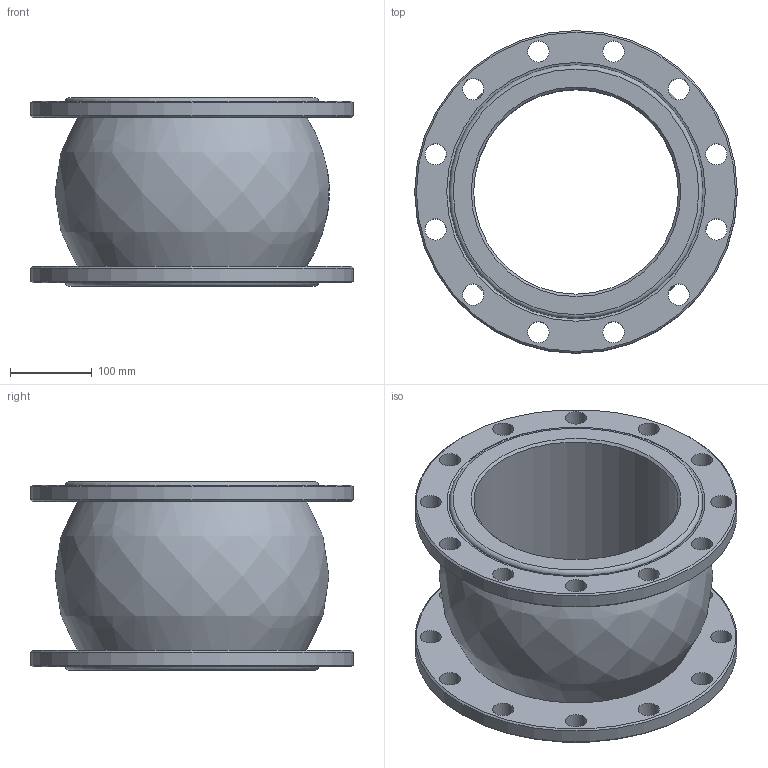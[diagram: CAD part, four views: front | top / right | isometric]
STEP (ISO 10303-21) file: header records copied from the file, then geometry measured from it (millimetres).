
FILE_DESCRIPTION(/* description */ ('D140-02180','CAx-IF Rec.Pracs.---Representation and Presentation of Product Manufacturing Information (PMI)---4.0---2014-10-13'),/* implementation_level */ '2;1');
FILE_NAME(/* name */ '',/* time_stamp */ '2026-04-30T11:25:56+03:00',/* author */ ('DN.RU'),/* organization */ ('DN.RU'),/* preprocessor_version */ 'ST-DEVELOPER v20',/* originating_system */ 'Autodesk Inventor 2025',/* authorisation */ '');
FILE_SCHEMA (('AP242_MANAGED_MODEL_BASED_3D_ENGINEERING_MIM_LF { 1 0 10303 442 1 1 4 }'));
Length unit declared in the file: millimetre
Products named in the file (1): CR-E25-F
Bounding box: 394 x 394 x 230 mm (x, y, z)
Volume: 8297418.1 mm3; surface area: 701700.5 mm2
Topology: 1 solids, 1 shells, 115 faces, 312 edges, 206 vertices
Faces by surface type: plane 43, bspline 34, cylinder 29, cone 7, torus 2
Full cylindrical faces by diameter (mm): 26 x24, 250 x1, 310 x2, 394 x2
Entity records: 5064 total; most frequent: CARTESIAN_POINT 1709, DIRECTION 660, ORIENTED_EDGE 624, EDGE_CURVE 312, AXIS2_PLACEMENT_3D 282, VERTEX_POINT 206, CIRCLE 187, EDGE_LOOP 172
